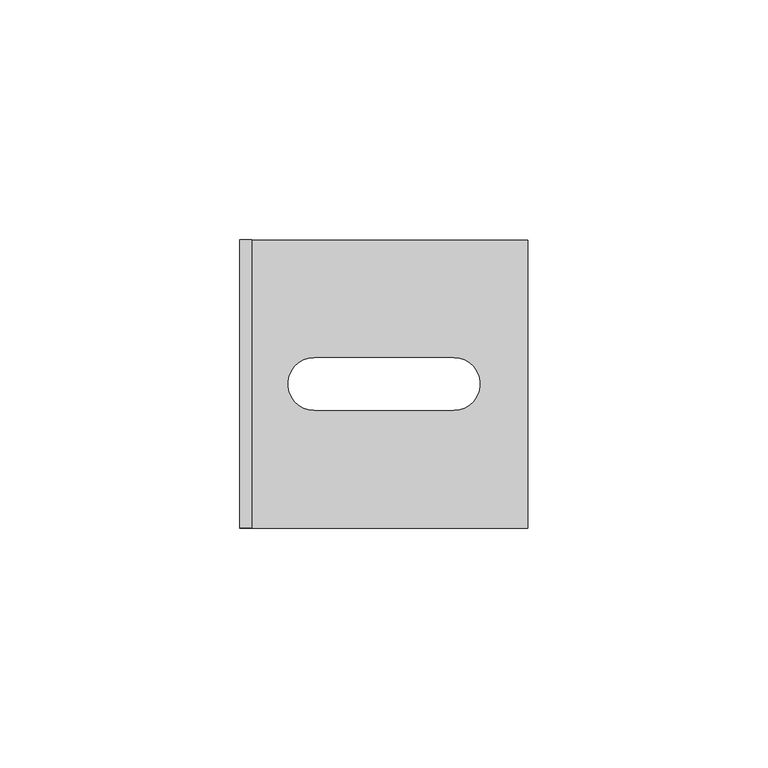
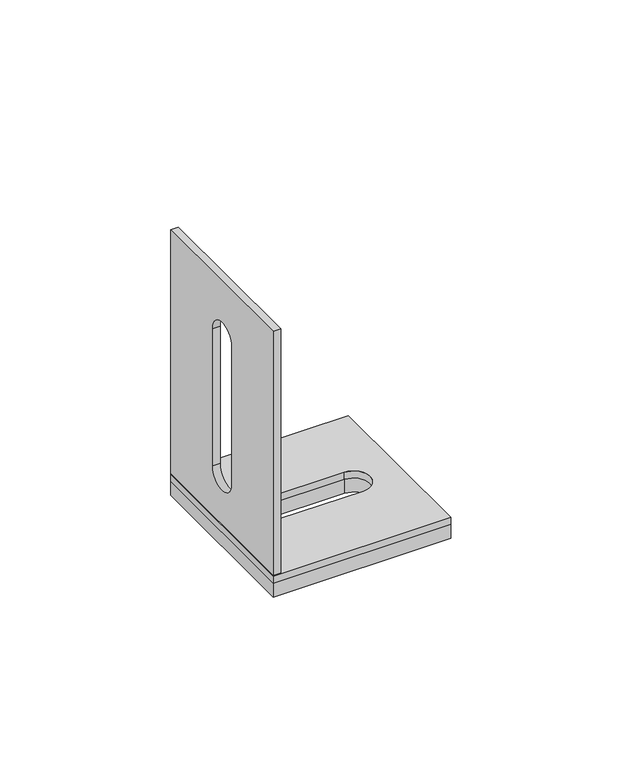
"""IFC4 building model written with IfcOpenShell, lengths in millimetres: proxy geometry, Alubel Alu-Skin Thermostop and Bracket : Thermostop+Bracket 60x60x90mm."""

from ifc_helpers import new_model, si_unit, point, frame, frame_2d, origin, origin_with_axes, place, context, project, spatial, polyline, circle_curve, trimmed, segment, composite_curve, outline, extrude, source, transform, mapped, element, save


def generic_models_14a9ec2d(model_context):
    return source(origin(), model_context, "Body", "SweptSolid", [
        extrude(outline(polyline([(30.0, -30.0), (-30.0, -30.0), (-30.0, 30.0), (30.0, 30.0), (30.0, -30.0)]), holes=[composite_curve([segment(polyline([(14.5, 5.5), (-14.5, 5.5)]), True, "CONTINUOUS"), segment(trimmed(circle_curve(frame_2d((-14.5, 0.0)), 5.5), [point((-14.5, 5.5))], [point((-14.5, -5.5))], True, "CARTESIAN"), True, "CONTINUOUS"), segment(polyline([(-14.5, -5.5), (14.5, -5.5)]), True, "CONTINUOUS"), segment(trimmed(circle_curve(frame_2d((14.5, 0.0)), 5.5), [point((14.5, -5.5))], [point((14.5, 5.5))], True, "CARTESIAN"), True, "CONTINUOUS")], self_intersect=False)]), frame((0.0, 0.0, 5.0), z_axis=(0.0, 0.0, 1.0), x_axis=(1.0, 0.0, 0.0)), (0.0, 0.0, 1.0), 2.5),
        extrude(outline(polyline([(30.0, -30.0), (-30.0, -30.0), (-30.0, 30.0), (30.0, 30.0), (30.0, -30.0)]), holes=[composite_curve([segment(trimmed(circle_curve(frame_2d((14.5, 0.0)), 5.5), [point((14.5, -5.5))], [point((14.5, 5.5))], True, "CARTESIAN"), True, "CONTINUOUS"), segment(polyline([(14.5, 5.5), (-14.5, 5.5)]), True, "CONTINUOUS"), segment(trimmed(circle_curve(frame_2d((-14.5, 0.0)), 5.5), [point((-14.5, 5.5))], [point((-14.5, -5.5))], True, "CARTESIAN"), True, "CONTINUOUS"), segment(polyline([(-14.5, -5.5), (14.5, -5.5)]), True, "CONTINUOUS")], self_intersect=False)]), origin_with_axes(), (0.0, 0.0, 1.0), 5.0),
        extrude(outline(polyline([(-30.0, 7.5), (-30.0, 95.0), (30.0, 95.0), (30.0, 7.5), (-30.0, 7.5)]), holes=[composite_curve([segment(trimmed(circle_curve(frame_2d((0.0, 74.5)), 5.5), [point((5.5, 74.5))], [point((-5.5, 74.5))], True, "CARTESIAN"), True, "CONTINUOUS"), segment(polyline([(-5.5, 74.5), (-5.5, 25.5)]), True, "CONTINUOUS"), segment(trimmed(circle_curve(frame_2d((0.0, 25.5)), 5.5), [point((-5.5, 25.5))], [point((5.5, 25.5))], True, "CARTESIAN"), True, "CONTINUOUS"), segment(polyline([(5.5, 25.5), (5.5, 74.5)]), True, "CONTINUOUS")], self_intersect=False)]), frame((-30.0, 0.0, 0.0), z_axis=(1.0, 0.0, 0.0), x_axis=(0.0, 1.0, 0.0)), (0.0, 0.0, 1.0), 2.5),
    ])


if __name__ == "__main__":
    model = new_model("IFC4")
    model_context = context("Model", 3, world=origin())
    ifc_project = project(units=[si_unit("LENGTHUNIT", "METRE", prefix="MILLI")], contexts=[model_context])
    site = spatial("IfcSite", under=ifc_project)
    building = spatial("IfcBuilding", under=site)
    placement = place(None, origin())
    generic_models_shape = generic_models_14a9ec2d(model_context)
    element("IfcBuildingElementProxy", 1, Name="Alubel Alu-Skin Thermostop and Bracket : Thermostop+Bracket 60x60x90mm", ObjectType="Alubel Alu-Skin Thermostop and Bracket : Thermostop+Bracket 60x60x90mm", at=placement, inside=building, context=model_context, shape_type="MappedRepresentation", body=[
        mapped(generic_models_shape, transform((0.0, 0.0, 0.0), x_axis=(1.0, 0.0, 0.0), y_axis=(0.0, 1.0, 0.0), z_axis=(0.0, 0.0, 1.0))),
    ])
    save(model, "model.ifc")
